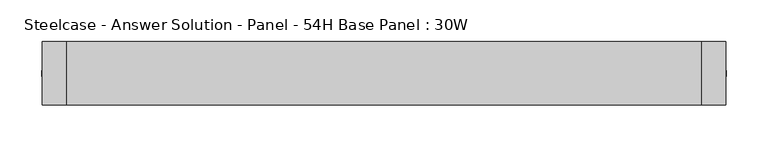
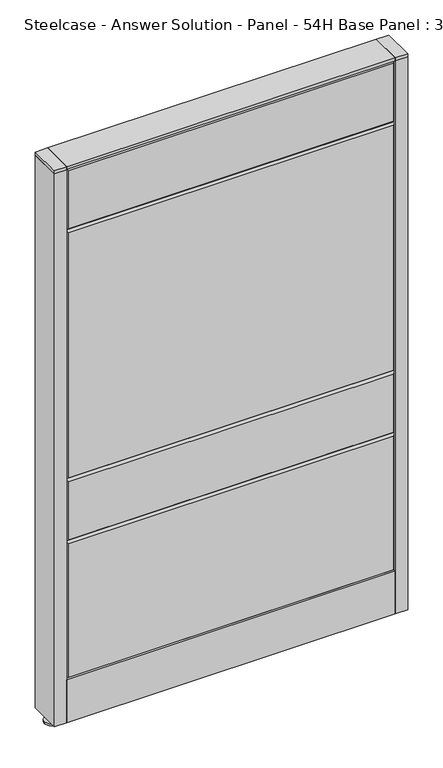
"""IFC4 building model written with IfcOpenShell, lengths in millimetres: furniture geometry, Steelcase - Answer Solution - Panel - 54H Base Panel : 30W."""

from ifc_helpers import new_model, si_unit, point, frame, frame_2d, origin, place, context, project, spatial, polyline, circle_curve, trimmed, segment, composite_curve, outline, extrude, faceted_brep, source, transform, mapped, element, save


def steelcase_answer_solution_panel_54h_base_panel_30w_e6c763e9(model_context):
    return source(origin(), model_context, "Body", "SolidModel", [
        extrude(outline(composite_curve([segment(trimmed(circle_curve(frame_2d((395.224, 0.0320214)), 5.08), [point((400.304, 0.0320214))], [point((390.144, 0.0320214))], False, "CARTESIAN"), True, "CONTINUOUS"), segment(trimmed(circle_curve(frame_2d((395.224, 0.0320214)), 5.08), [point((390.144, 0.0320214))], [point((400.304, 0.0320214))], False, "CARTESIAN"), True, "CONTINUOUS")], self_intersect=False)), frame((0.0, 0.0, 5.0799671), z_axis=(0.0, 0.0, 1.0), x_axis=(1.0, 0.0, 0.0)), (0.0, 0.0, 1.0), 10.414),
        extrude(outline(composite_curve([segment(trimmed(circle_curve(frame_2d((395.224, 0.0320214)), 15.24), [point((410.464, 0.0320214))], [point((379.984, 0.0320214))], False, "CARTESIAN"), True, "CONTINUOUS"), segment(trimmed(circle_curve(frame_2d((395.224, 0.0320214)), 15.24), [point((379.984, 0.0320214))], [point((410.464, 0.0320214))], False, "CARTESIAN"), True, "CONTINUOUS")], self_intersect=False)), frame((0.0, 0.0, -3.29e-05), z_axis=(0.0, 0.0, 1.0), x_axis=(1.0, 0.0, 0.0)), (0.0, 0.0, 1.0), 5.08),
        extrude(outline(polyline([(409.575, 38.1320408), (409.575, -38.0679592), (381.0, -38.0679592), (381.0, 38.1320408), (409.575, 38.1320408)])), frame((0.0, 0.0, 1370.6348), z_axis=(0.0, 0.0, 1.0), x_axis=(1.0, 0.0, 0.0)), (0.0, 0.0, 1.0), 7.3151671),
        extrude(outline(polyline([(409.575, 38.1320408), (409.575, -38.0679592), (381.0, -38.0679592), (381.0, 38.1320408), (409.575, 38.1320408)])), frame((0.0, 0.0, 15.4939671), z_axis=(0.0, 0.0, 1.0), x_axis=(1.0, 0.0, 0.0)), (0.0, 0.0, 1.0), 1355.1408329),
        extrude(outline(composite_curve([segment(trimmed(circle_curve(frame_2d((-395.224, 0.0320214)), 5.08), [point((-400.304, 0.0320214))], [point((-390.144, 0.0320214))], False, "CARTESIAN"), True, "CONTINUOUS"), segment(trimmed(circle_curve(frame_2d((-395.224, 0.0320214)), 5.08), [point((-390.144, 0.0320214))], [point((-400.304, 0.0320214))], False, "CARTESIAN"), True, "CONTINUOUS")], self_intersect=False)), frame((0.0, 0.0, 5.0799671), z_axis=(0.0, 0.0, 1.0), x_axis=(1.0, 0.0, 0.0)), (0.0, 0.0, 1.0), 10.414),
        extrude(outline(composite_curve([segment(trimmed(circle_curve(frame_2d((-395.224, 0.0320214)), 15.24), [point((-410.464, 0.0320214))], [point((-379.984, 0.0320214))], False, "CARTESIAN"), True, "CONTINUOUS"), segment(trimmed(circle_curve(frame_2d((-395.224, 0.0320214)), 15.24), [point((-379.984, 0.0320214))], [point((-410.464, 0.0320214))], False, "CARTESIAN"), True, "CONTINUOUS")], self_intersect=False)), frame((0.0, 0.0, -3.29e-05), z_axis=(0.0, 0.0, 1.0), x_axis=(1.0, 0.0, 0.0)), (0.0, 0.0, 1.0), 5.08),
        extrude(outline(polyline([(-409.575, 38.1320408), (-381.0, 38.1320408), (-381.0, -38.0679592), (-409.575, -38.0679592), (-409.575, 38.1320408)])), frame((0.0, 0.0, 1370.6348), z_axis=(0.0, 0.0, 1.0), x_axis=(1.0, 0.0, 0.0)), (0.0, 0.0, 1.0), 7.3151671),
        extrude(outline(polyline([(-409.575, 38.1320408), (-381.0, 38.1320408), (-381.0, -38.0679592), (-409.575, -38.0679592), (-409.575, 38.1320408)])), frame((0.0, 0.0, 15.4939671), z_axis=(0.0, 0.0, 1.0), x_axis=(1.0, 0.0, 0.0)), (0.0, 0.0, 1.0), 1355.1408329),
        faceted_brep([(-376.174, 38.1635011, 1366.774), (376.174, 38.1635011, 1366.774), (376.174, 38.1635011, 1224.026), (-376.174, 38.1635011, 1224.026), (-381.0, 33.3375011, 1371.6), (-381.0, 33.3375011, 1219.2), (381.0, 33.3375011, 1219.2), (381.0, 33.3375011, 1371.6)], [[[0, 1, 2, 3]], [[4, 5, 6, 7]], [[4, 7, 1, 0]], [[7, 6, 2, 1]], [[6, 5, 3, 2]], [[5, 4, 0, 3]]]),
        faceted_brep([(-376.174, 38.1635011, 1214.374), (376.174, 38.1635011, 1214.374), (376.174, 38.1635011, 614.426), (-376.174, 38.1635011, 614.426), (-381.0, 33.3375011, 1219.2), (-381.0, 33.3375011, 609.6), (381.0, 33.3375011, 609.6), (381.0, 33.3375011, 1219.2)], [[[0, 1, 2, 3]], [[4, 5, 6, 7]], [[4, 7, 1, 0]], [[7, 6, 2, 1]], [[6, 5, 3, 2]], [[5, 4, 0, 3]]]),
        faceted_brep([(-376.174, 38.1635011, 604.774), (376.174, 38.1635011, 604.774), (376.174, 38.1635011, 462.026), (-376.174, 38.1635011, 462.026), (-381.0, 33.3375011, 609.6), (-381.0, 33.3375011, 457.2), (381.0, 33.3375011, 457.2), (381.0, 33.3375011, 609.6)], [[[0, 1, 2, 3]], [[4, 5, 6, 7]], [[4, 7, 1, 0]], [[7, 6, 2, 1]], [[6, 5, 3, 2]], [[5, 4, 0, 3]]]),
        faceted_brep([(-376.174, 38.1635011, 452.374), (376.174, 38.1635011, 452.374), (376.174, 38.1635011, 125.476), (-376.174, 38.1635011, 125.476), (-381.0, 33.3375011, 457.2), (-381.0, 33.3375011, 120.65), (381.0, 33.3375011, 120.65), (381.0, 33.3375011, 457.2)], [[[0, 1, 2, 3]], [[4, 5, 6, 7]], [[4, 7, 1, 0]], [[7, 6, 2, 1]], [[6, 5, 3, 2]], [[5, 4, 0, 3]]]),
        faceted_brep([(376.174, -38.1635011, 1366.774), (-376.174, -38.1635011, 1366.774), (-376.174, -38.1635011, 1224.026), (376.174, -38.1635011, 1224.026), (381.0, -33.3375011, 1371.6), (381.0, -33.3375011, 1219.2), (-381.0, -33.3375011, 1219.2), (-381.0, -33.3375011, 1371.6)], [[[0, 1, 2, 3]], [[4, 5, 6, 7]], [[4, 7, 1, 0]], [[7, 6, 2, 1]], [[6, 5, 3, 2]], [[5, 4, 0, 3]]]),
        faceted_brep([(376.174, -38.1635011, 1214.374), (-376.174, -38.1635011, 1214.374), (-376.174, -38.1635011, 614.426), (376.174, -38.1635011, 614.426), (381.0, -33.3375011, 1219.2), (381.0, -33.3375011, 609.6), (-381.0, -33.3375011, 609.6), (-381.0, -33.3375011, 1219.2)], [[[0, 1, 2, 3]], [[4, 5, 6, 7]], [[4, 7, 1, 0]], [[7, 6, 2, 1]], [[6, 5, 3, 2]], [[5, 4, 0, 3]]]),
        faceted_brep([(376.174, -38.1635011, 604.774), (-376.174, -38.1635011, 604.774), (-376.174, -38.1635011, 462.026), (376.174, -38.1635011, 462.026), (381.0, -33.3375011, 609.6), (381.0, -33.3375011, 457.2), (-381.0, -33.3375011, 457.2), (-381.0, -33.3375011, 609.6)], [[[0, 1, 2, 3]], [[4, 5, 6, 7]], [[4, 7, 1, 0]], [[7, 6, 2, 1]], [[6, 5, 3, 2]], [[5, 4, 0, 3]]]),
        faceted_brep([(376.174, -38.1635011, 452.374), (-376.174, -38.1635011, 452.374), (-376.174, -38.1635011, 125.476), (376.174, -38.1635011, 125.476), (381.0, -33.3375011, 457.2), (381.0, -33.3375011, 120.65), (-381.0, -33.3375011, 120.65), (-381.0, -33.3375011, 457.2)], [[[0, 1, 2, 3]], [[4, 5, 6, 7]], [[4, 7, 1, 0]], [[7, 6, 2, 1]], [[6, 5, 3, 2]], [[5, 4, 0, 3]]]),
        extrude(outline(polyline([(381.0, 38.1000194), (381.0, -38.1000194), (-381.0, -38.1000194), (-381.0, 38.1000194), (381.0, 38.1000194)])), frame((0.0, 0.0, 1371.6), z_axis=(0.0, 0.0, 1.0), x_axis=(1.0, 0.0, 0.0)), (0.0, 0.0, 1.0), 6.35),
        extrude(outline(polyline([(25.4000011, 119.8575157), (25.4000011, 120.65), (38.1000194, 120.65), (38.1000194, 15.494), (37.3075215, 15.494), (37.3075215, 119.8575157), (25.4000011, 119.8575157)])), frame((-381.0, 0.0, 0.0), z_axis=(1.0, 0.0, 0.0), x_axis=(0.0, 1.0, 0.0)), (0.0, 0.0, 1.0), 762.0),
        extrude(outline(polyline([(-25.4000011, 119.8575157), (-37.3075215, 119.8575157), (-37.3075215, 15.494), (-38.1000194, 15.494), (-38.1000194, 120.65), (-25.4000011, 120.65), (-25.4000011, 119.8575157)])), frame((-381.0, 0.0, 0.0), z_axis=(1.0, 0.0, 0.0), x_axis=(0.0, 1.0, 0.0)), (0.0, 0.0, 1.0), 762.0),
    ])


if __name__ == "__main__":
    model = new_model("IFC4")
    model_context = context("Model", 3, world=origin())
    ifc_project = project(units=[si_unit("LENGTHUNIT", "METRE", prefix="MILLI")], contexts=[model_context])
    site = spatial("IfcSite", under=ifc_project)
    building = spatial("IfcBuilding", under=site)
    placement = place(None, origin())
    steelcase_answer_solution_panel_54h_base_panel_30w_shape = steelcase_answer_solution_panel_54h_base_panel_30w_e6c763e9(model_context)
    element("IfcFurniture", 1, ObjectType="Steelcase - Answer Solution - Panel - 54H Base Panel : 30W", at=placement, inside=building, context=model_context, shape_type="MappedRepresentation", body=[
        mapped(steelcase_answer_solution_panel_54h_base_panel_30w_shape, transform((0.0, 0.0, 0.0), x_axis=(1.0, 0.0, 0.0), y_axis=(0.0, 1.0, 0.0), z_axis=(0.0, 0.0, 1.0))),
    ])
    save(model, "model.ifc")
